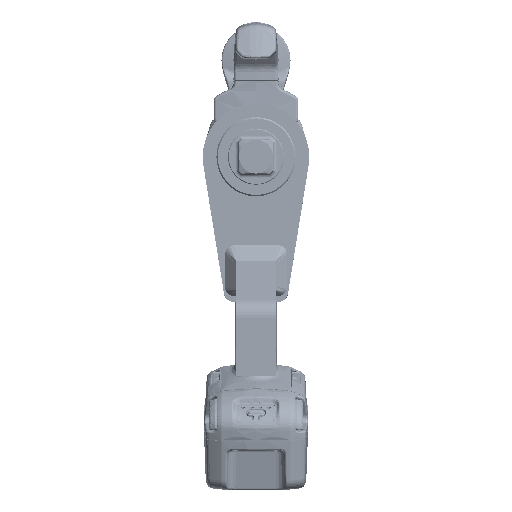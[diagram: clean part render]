
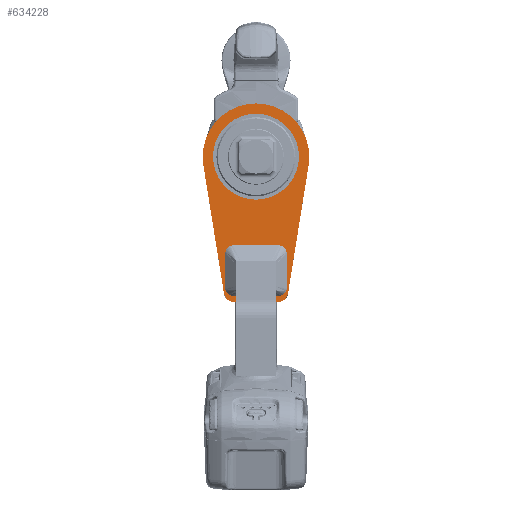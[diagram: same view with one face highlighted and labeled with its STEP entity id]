
A CAD part, top view. The second image highlights one B-rep face of the part: STEP entity #634228.
In plain terms, the highlighted planar face has unit normal (0, 0, 1).
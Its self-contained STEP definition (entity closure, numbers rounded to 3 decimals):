
#633783=DIRECTION('',(0.159,-0.987,0.));
#633784=VECTOR('',#633783,97.58);
#633785=CARTESIAN_POINT('',(-39.493,-6.345,234.));
#633786=LINE('',#633785,#633784);
#633787=CARTESIAN_POINT('',(0.,0.,234.));
#633788=DIRECTION('',(0.,0.,1.));
#633789=DIRECTION('',(0.,1.,0.));
#633790=AXIS2_PLACEMENT_3D('',#633787,#633788,#633789);
#633792=CARTESIAN_POINT('',(0.,0.,234.));
#633793=DIRECTION('',(0.,0.,1.));
#633794=DIRECTION('',(0.987,-0.159,0.));
#633795=AXIS2_PLACEMENT_3D('',#633792,#633793,#633794);
#633797=DIRECTION('',(0.159,0.987,0.));
#633798=VECTOR('',#633797,97.58);
#633799=CARTESIAN_POINT('',(24.014,-102.69,234.));
#633800=LINE('',#633799,#633798);
#633801=CARTESIAN_POINT('',(16.609,-101.5,234.));
#633802=DIRECTION('',(0.,0.,1.));
#633803=DIRECTION('',(0.,-1.,0.));
#633804=AXIS2_PLACEMENT_3D('',#633801,#633802,#633803);
#633806=CARTESIAN_POINT('',(-16.609,-101.5,234.));
#633807=DIRECTION('',(0.,0.,1.));
#633808=DIRECTION('',(-0.987,-0.159,0.));
#633809=AXIS2_PLACEMENT_3D('',#633806,#633807,#633808);
#633851=DIRECTION('',(-1.,0.,0.));
#633852=VECTOR('',#633851,33.218);
#633853=CARTESIAN_POINT('',(16.609,-109.,234.));
#633854=LINE('',#633853,#633852);
#634131=CARTESIAN_POINT('',(-39.493,-6.345,234.));
#634132=CARTESIAN_POINT('',(-24.014,-102.69,234.));
#634133=VERTEX_POINT('',#634131);
#634134=VERTEX_POINT('',#634132);
#634135=CARTESIAN_POINT('',(-16.609,-109.,234.));
#634136=VERTEX_POINT('',#634135);
#634137=CARTESIAN_POINT('',(16.609,-109.,234.));
#634138=VERTEX_POINT('',#634137);
#634139=CARTESIAN_POINT('',(24.014,-102.69,234.));
#634140=VERTEX_POINT('',#634139);
#634141=CARTESIAN_POINT('',(39.493,-6.345,234.));
#634142=VERTEX_POINT('',#634141);
#634143=CARTESIAN_POINT('',(0.,40.,234.));
#634144=VERTEX_POINT('',#634143);
#634207=CARTESIAN_POINT('',(0.,0.,234.));
#634208=DIRECTION('',(0.,0.,1.));
#634209=DIRECTION('',(0.,1.,0.));
#634210=AXIS2_PLACEMENT_3D('',#634207,#634208,#634209);
#634211=PLANE('',#634210);
#634213=ORIENTED_EDGE('',*,*,#634212,.F.);
#634215=ORIENTED_EDGE('',*,*,#634214,.F.);
#634217=ORIENTED_EDGE('',*,*,#634216,.F.);
#634219=ORIENTED_EDGE('',*,*,#634218,.F.);
#634221=ORIENTED_EDGE('',*,*,#634220,.F.);
#634223=ORIENTED_EDGE('',*,*,#634222,.T.);
#634225=ORIENTED_EDGE('',*,*,#634224,.F.);
#634226=EDGE_LOOP('',(#634213,#634215,#634217,#634219,#634221,#634223,#634225));
#634227=FACE_OUTER_BOUND('',#634226,.F.);
#634228=ADVANCED_FACE('',(#634227),#634211,.T.);
#633791=CIRCLE('',#633790,40.);
#633796=CIRCLE('',#633795,40.);
#633805=CIRCLE('',#633804,7.5);
#633810=CIRCLE('',#633809,7.5);
#634212=EDGE_CURVE('',#634133,#634134,#633786,.T.);
#634214=EDGE_CURVE('',#634144,#634133,#633791,.T.);
#634216=EDGE_CURVE('',#634142,#634144,#633796,.T.);
#634218=EDGE_CURVE('',#634140,#634142,#633800,.T.);
#634220=EDGE_CURVE('',#634138,#634140,#633805,.T.);
#634222=EDGE_CURVE('',#634138,#634136,#633854,.T.);
#634224=EDGE_CURVE('',#634134,#634136,#633810,.T.);
